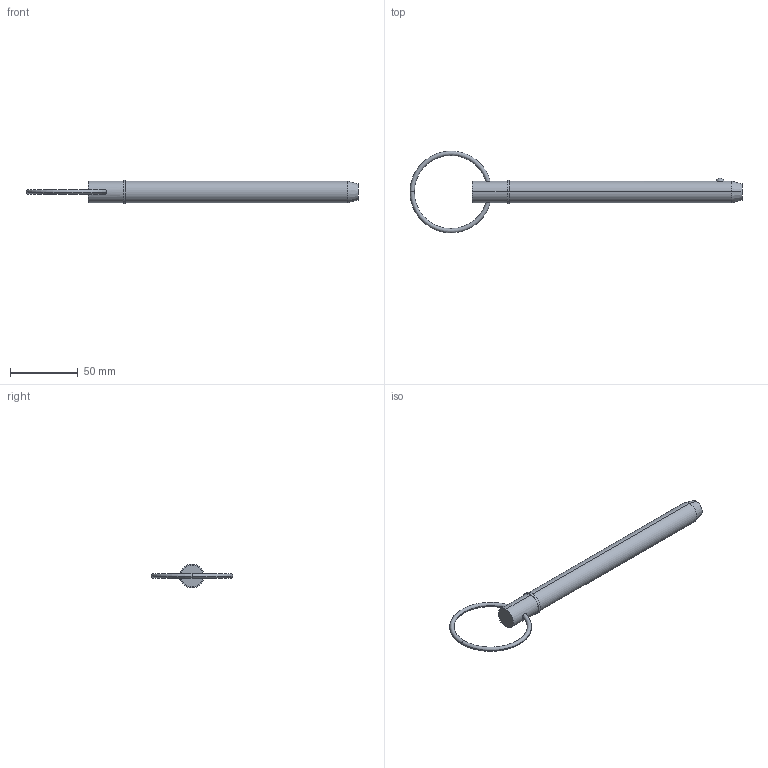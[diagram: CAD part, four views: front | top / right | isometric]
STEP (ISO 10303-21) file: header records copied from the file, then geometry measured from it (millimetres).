
FILE_DESCRIPTION (( 'STEP AP203' ), '1' );
FILE_NAME ('33014.W6260.step', '2024-11-04T08:34:35', ( '' ), ( '' ), 'SwSTEP 2.0', 'SolidWorks 2019', '' );
FILE_SCHEMA (( 'CONFIG_CONTROL_DESIGN' ));
Length unit declared in the file: millimetre
Products named in the file (3): Part1_33014.W6260; Part2_33014.W6260; 33014.W6260
Assembly tree (2 placements, depth 2):
  33014.W6260
    Part1_33014.W6260
    Part2_33014.W6260
Bounding box: 244.78 x 60.33 x 17.47 mm (x, y, z)
Volume: 40356.3 mm3; surface area: 12262.7 mm2
Topology: 2 solids, 2 shells, 22 faces, 43 edges, 26 vertices
Faces by surface type: torus 8, cylinder 6, plane 4, sphere 2, cone 2
Entity records: 1047 total; most frequent: CARTESIAN_POINT 270, DIRECTION 120, ORIENTED_EDGE 86, AXIS2_PLACEMENT_3D 56, EDGE_CURVE 43, CIRCLE 29, EDGE_LOOP 27, PERSON_AND_ORGANIZATION 26
